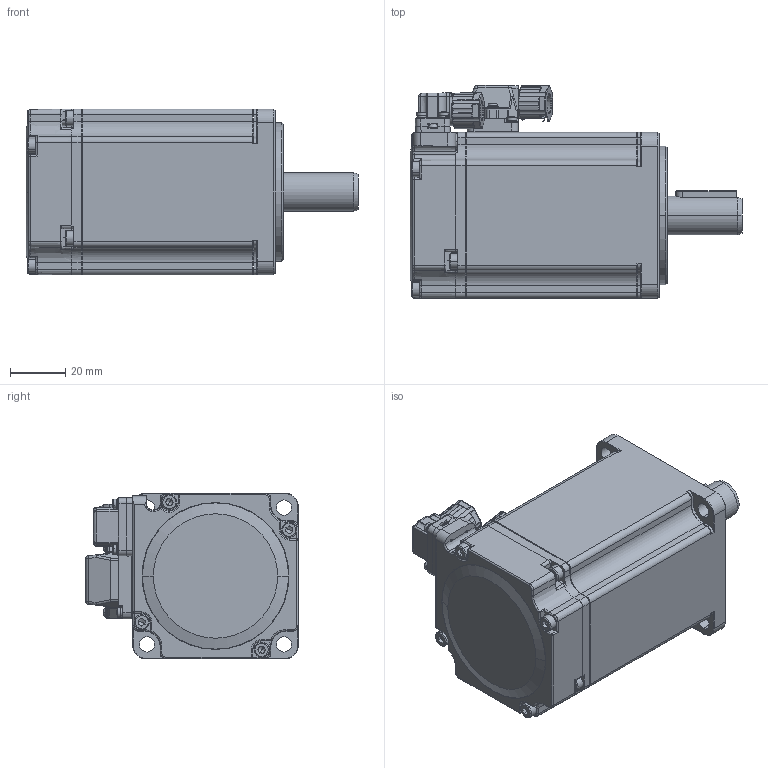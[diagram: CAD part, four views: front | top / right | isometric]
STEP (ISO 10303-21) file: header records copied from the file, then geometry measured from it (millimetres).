
FILE_DESCRIPTION (( 'STEP AP214' ), '1' );
FILE_NAME ('ACM0H 400W.STEP', '2023-07-27T07:40:22', ( 'Windows 蚚誧' ), ( 'Organization' ), 'SwSTEP 2.0', 'SolidWorks 2021', '' );
FILE_SCHEMA (( 'AUTOMOTIVE_DESIGN' ));
Length unit declared in the file: millimetre
Products named in the file (1): ACM0H  400W
Bounding box: 120.1 x 77 x 60 mm (x, y, z)
Surface area: 36841.1 mm2 (no closed solid volume)
Topology: 0 solids, 45 shells, 1193 faces, 3766 edges, 2477 vertices
Faces by surface type: cylinder 471, plane 410, torus 186, cone 73, sphere 29, bspline 24
Entity records: 58094 total; most frequent: CARTESIAN_POINT 12483, DIRECTION 7099, ORIENTED_EDGE 6169, EDGE_CURVE 3747, AXIS2_PLACEMENT_3D 2834, VERTEX_POINT 2477, CIRCLE 1664, LINE 1431
